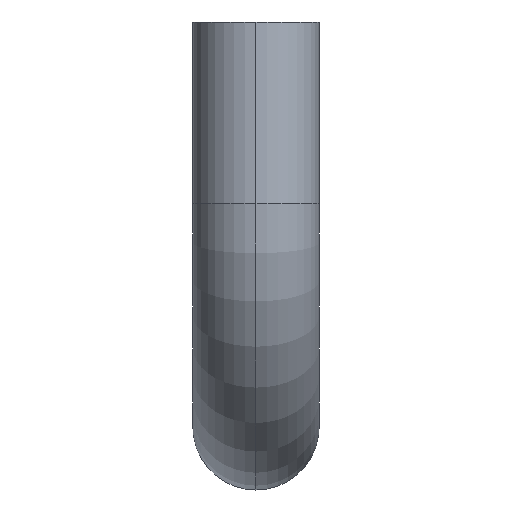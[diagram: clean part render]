
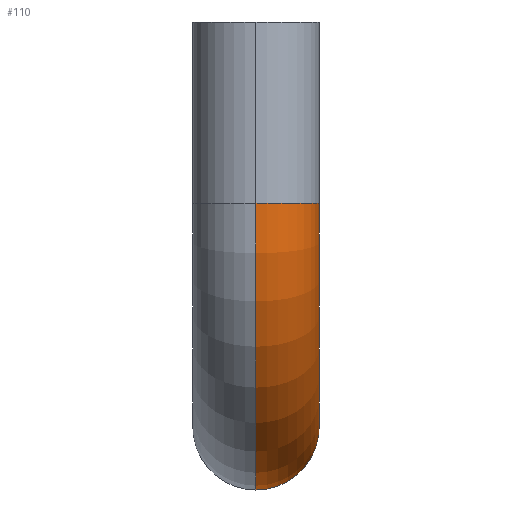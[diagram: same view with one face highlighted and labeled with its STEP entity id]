
A CAD part, left-side view. The second image highlights one B-rep face of the part: STEP entity #110.
In plain terms, the highlighted toroidal (fillet/blend) face has major radius 17.66 mm and minor radius 5 mm.
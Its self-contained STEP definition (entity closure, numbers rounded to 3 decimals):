
#13 = ORIENTED_EDGE ( 'NONE', *, *, #366, .T. ) ;
#28 = CARTESIAN_POINT ( 'NONE',  ( -65., 0., 17.66 ) ) ;
#40 = CARTESIAN_POINT ( 'NONE',  ( -60., 0., 17.66 ) ) ;
#54 = EDGE_LOOP ( 'NONE', ( #13, #218, #351, #385 ) ) ;
#74 = DIRECTION ( 'NONE',  ( 1., 0., 0. ) ) ;
#75 = EDGE_CURVE ( 'NONE', #303, #445, #415, .T. ) ;
#92 = FACE_OUTER_BOUND ( 'NONE', #54, .T. ) ;
#110 = ADVANCED_FACE ( 'NONE', ( #92 ), #329, .T. ) ;
#125 = DIRECTION ( 'NONE',  ( 0., 0., -1. ) ) ;
#127 = EDGE_CURVE ( 'NONE', #445, #202, #157, .T. ) ;
#137 = DIRECTION ( 'NONE',  ( 0., -1., 0. ) ) ;
#157 = CIRCLE ( 'NONE', #408, 5. ) ;
#177 = VERTEX_POINT ( 'NONE', #28 ) ;
#184 = AXIS2_PLACEMENT_3D ( 'NONE', #517, #463, #262 ) ;
#202 = VERTEX_POINT ( 'NONE', #287 ) ;
#203 = CIRCLE ( 'NONE', #397, 22.66 ) ;
#218 = ORIENTED_EDGE ( 'NONE', *, *, #498, .T. ) ;
#229 = CARTESIAN_POINT ( 'NONE',  ( -42.34, 0., 5. ) ) ;
#239 = CARTESIAN_POINT ( 'NONE',  ( -42.34, 0., 17.66 ) ) ;
#247 = AXIS2_PLACEMENT_3D ( 'NONE', #239, #448, #451 ) ;
#250 = DIRECTION ( 'NONE',  ( 0., 0., -1. ) ) ;
#254 = CARTESIAN_POINT ( 'NONE',  ( -55., 0., 17.66 ) ) ;
#262 = DIRECTION ( 'NONE',  ( 0., 0., -1. ) ) ;
#287 = CARTESIAN_POINT ( 'NONE',  ( -42.34, 0., -5. ) ) ;
#303 = VERTEX_POINT ( 'NONE', #254 ) ;
#329 = TOROIDAL_SURFACE ( 'NONE', #247, 17.66, 5. ) ;
#351 = ORIENTED_EDGE ( 'NONE', *, *, #127, .F. ) ;
#353 = CARTESIAN_POINT ( 'NONE',  ( -42.34, 0., 0. ) ) ;
#366 = EDGE_CURVE ( 'NONE', #303, #177, #376, .T. ) ;
#376 = CIRCLE ( 'NONE', #407, 5. ) ;
#385 = ORIENTED_EDGE ( 'NONE', *, *, #75, .F. ) ;
#397 = AXIS2_PLACEMENT_3D ( 'NONE', #421, #137, #250 ) ;
#407 = AXIS2_PLACEMENT_3D ( 'NONE', #40, #125, #534 ) ;
#408 = AXIS2_PLACEMENT_3D ( 'NONE', #353, #74, #522 ) ;
#415 = CIRCLE ( 'NONE', #184, 12.66 ) ;
#421 = CARTESIAN_POINT ( 'NONE',  ( -42.34, 0., 17.66 ) ) ;
#445 = VERTEX_POINT ( 'NONE', #229 ) ;
#448 = DIRECTION ( 'NONE',  ( 0., -1., 0. ) ) ;
#451 = DIRECTION ( 'NONE',  ( 0., 0., -1. ) ) ;
#463 = DIRECTION ( 'NONE',  ( 0., -1., 0. ) ) ;
#498 = EDGE_CURVE ( 'NONE', #177, #202, #203, .T. ) ;
#517 = CARTESIAN_POINT ( 'NONE',  ( -42.34, 0., 17.66 ) ) ;
#522 = DIRECTION ( 'NONE',  ( 0., 0., -1. ) ) ;
#534 = DIRECTION ( 'NONE',  ( -1., 0., 0. ) ) ;
